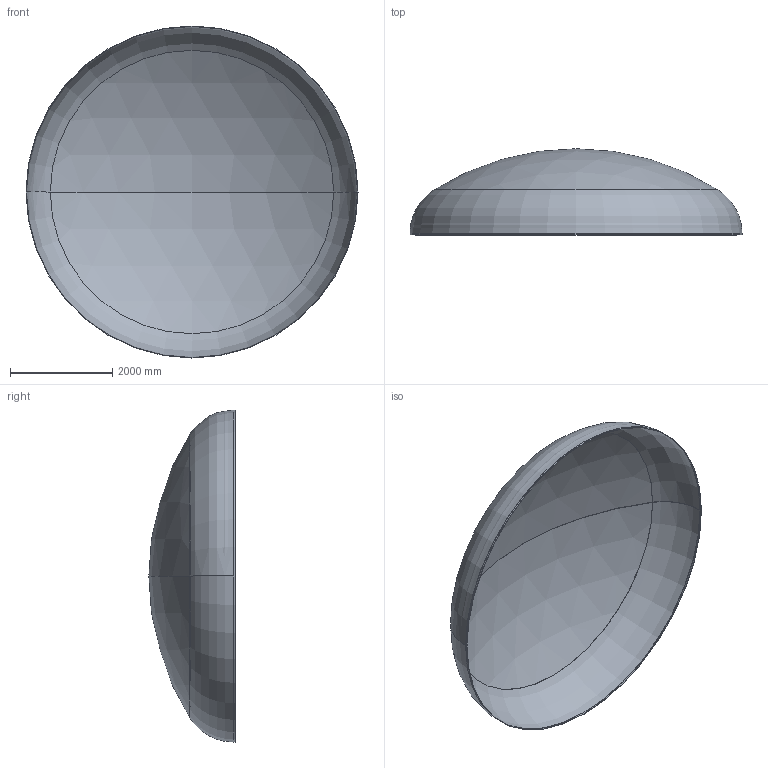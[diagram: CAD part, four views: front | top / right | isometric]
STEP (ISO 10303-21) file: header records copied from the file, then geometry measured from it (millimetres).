
FILE_DESCRIPTION (( 'STEP AP203' ), '1' );
FILE_NAME ('DIN 28013 Korbbogenform_-_Boden DIN 28013 - 6500 x 30 - I - s=9.step', '2016-07-04T10:39:43', ( '' ), ( '' ), 'SwSTEP 2.0', 'SolidWorks 2013', '' );
FILE_SCHEMA (( 'CONFIG_CONTROL_DESIGN' ));
Length unit declared in the file: millimetre
Products named in the file (1): DIN 28013 Korbbogenform_-_Boden DIN 28013 - 6500 x 30 - I - s=9
Bounding box: 6500 x 1686.83 x 6500 mm (x, y, z)
Volume: 418335903.8 mm3; surface area: 93147193.8 mm2
Topology: 1 solids, 1 shells, 13 faces, 24 edges, 14 vertices
Faces by surface type: torus 4, cylinder 4, sphere 4, plane 1
Entity records: 407 total; most frequent: DIRECTION 72, CARTESIAN_POINT 52, ORIENTED_EDGE 48, AXIS2_PLACEMENT_3D 34, EDGE_CURVE 24, CIRCLE 20, VERTEX_POINT 14, EDGE_LOOP 14
